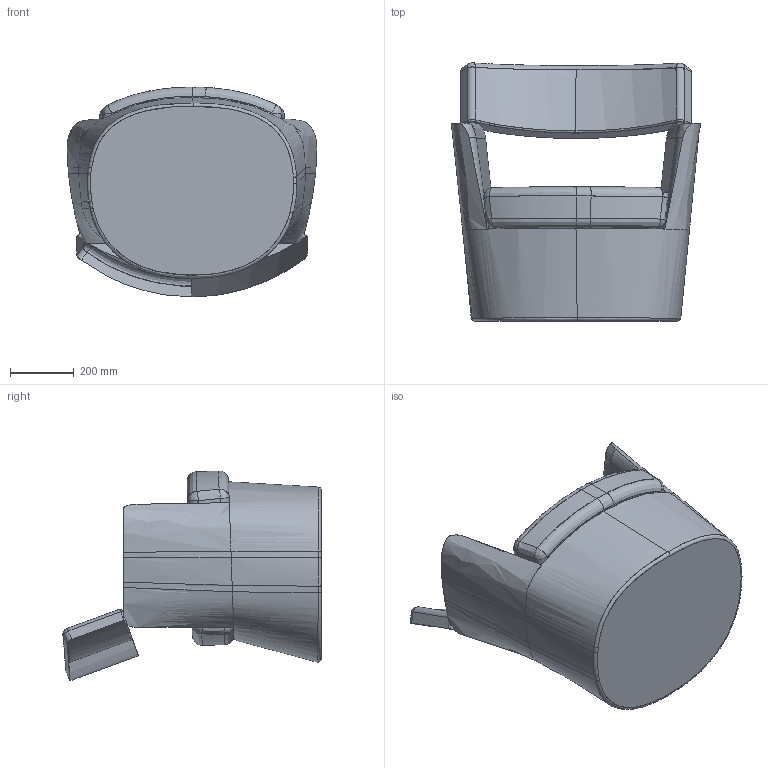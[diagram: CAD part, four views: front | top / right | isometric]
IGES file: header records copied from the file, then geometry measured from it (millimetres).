
Start section: SolidWorks IGES file using analytic representation for surfaces
Global section: file name: G:\Echant et Market\20-MOBILIER\MODELISATION 3D\mod; native system: Rhinoceros ( Sep 13 2021 ); preprocessor: Trout Lake IGES 012 Sep 13 2021; date: 211104.112419; units: millimetre
Bounding box: 783.12 x 810.32 x 658.31 mm (x, y, z)
Surface area: 2709714.2 mm2 (no closed solid volume)
Topology: 0 solids, 0 shells, 95 faces, 1378 edges, 1377 vertices
Faces by surface type: bspline 95
